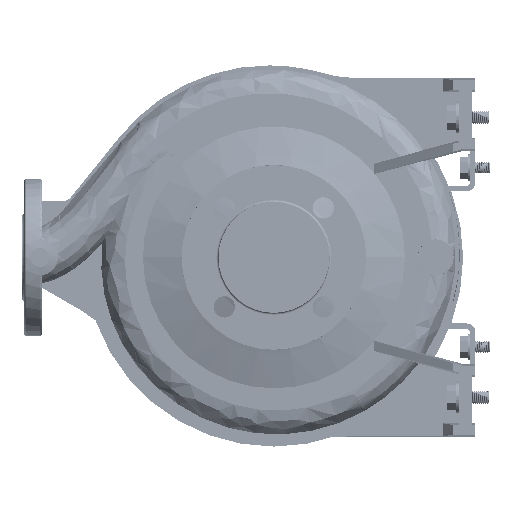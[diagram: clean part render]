
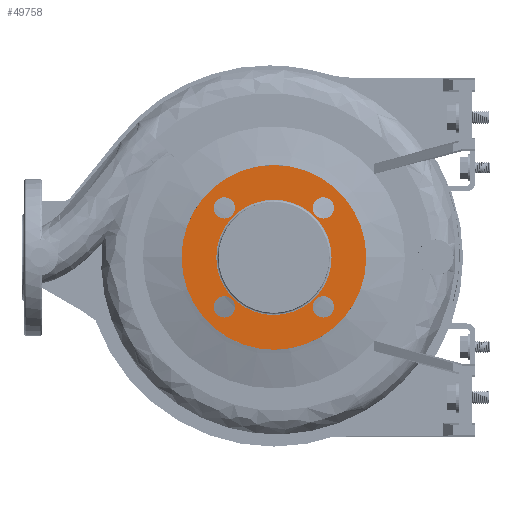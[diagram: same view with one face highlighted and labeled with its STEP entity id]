
A CAD part, left-side view. The second image highlights one B-rep face of the part: STEP entity #49758.
In plain terms, the highlighted planar face has unit normal (-1, 0, 0).
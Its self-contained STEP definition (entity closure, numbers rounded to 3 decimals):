
#1000 = DIRECTION ( 'NONE',  ( 0., -1., 0. ) ) ;
#1547 = AXIS2_PLACEMENT_3D ( 'NONE', #15492, #84991, #169433 ) ;
#2424 = DIRECTION ( 'NONE',  ( 0., 0., -1. ) ) ;
#3151 = FACE_BOUND ( 'NONE', #183386, .T. ) ;
#3783 = EDGE_CURVE ( 'NONE', #137918, #134815, #61438, .T. ) ;
#4379 = CARTESIAN_POINT ( 'NONE',  ( -98., 51.5, 0. ) ) ;
#4579 = VERTEX_POINT ( 'NONE', #16188 ) ;
#10284 = DIRECTION ( 'NONE',  ( 0., 0., 1. ) ) ;
#14205 = DIRECTION ( 'NONE',  ( -1., 0., 0. ) ) ;
#15067 = CARTESIAN_POINT ( 'NONE',  ( -98., -34.694, -44.194 ) ) ;
#15492 = CARTESIAN_POINT ( 'NONE',  ( -98., 44.194, -44.194 ) ) ;
#16188 = CARTESIAN_POINT ( 'NONE',  ( -98., -34.694, 44.194 ) ) ;
#21710 = DIRECTION ( 'NONE',  ( 0., 1., 0. ) ) ;
#23884 = AXIS2_PLACEMENT_3D ( 'NONE', #178594, #107275, #164517 ) ;
#24857 = CIRCLE ( 'NONE', #108704, 9.5 ) ;
#26494 = CIRCLE ( 'NONE', #35503, 9.5 ) ;
#27367 = CARTESIAN_POINT ( 'NONE',  ( -98., -44.194, -44.194 ) ) ;
#29463 = ORIENTED_EDGE ( 'NONE', *, *, #74796, .F. ) ;
#31032 = DIRECTION ( 'NONE',  ( 0., -1., 0. ) ) ;
#31188 = ORIENTED_EDGE ( 'NONE', *, *, #103571, .T. ) ;
#34107 = FACE_BOUND ( 'NONE', #44030, .T. ) ;
#35503 = AXIS2_PLACEMENT_3D ( 'NONE', #170699, #54403, #10284 ) ;
#36001 = ORIENTED_EDGE ( 'NONE', *, *, #38910, .F. ) ;
#36553 = CIRCLE ( 'NONE', #120496, 9.5 ) ;
#36808 = CARTESIAN_POINT ( 'NONE',  ( -98., 53.694, -44.194 ) ) ;
#37616 = CARTESIAN_POINT ( 'NONE',  ( -98., 0., 0. ) ) ;
#38910 = EDGE_CURVE ( 'NONE', #4579, #175859, #144381, .T. ) ;
#39610 = DIRECTION ( 'NONE',  ( 0., 0., -1. ) ) ;
#40286 = ORIENTED_EDGE ( 'NONE', *, *, #154638, .F. ) ;
#42578 = VERTEX_POINT ( 'NONE', #4379 ) ;
#43262 = DIRECTION ( 'NONE',  ( 0., 1., 0. ) ) ;
#44030 = EDGE_LOOP ( 'NONE', ( #29463, #138093 ) ) ;
#45769 = CARTESIAN_POINT ( 'NONE',  ( -98., 0., 0. ) ) ;
#46028 = DIRECTION ( 'NONE',  ( -1., 0., 0. ) ) ;
#49121 = FACE_BOUND ( 'NONE', #149010, .T. ) ;
#49758 = ADVANCED_FACE ( 'NONE', ( #34107, #177660, #49121, #106338, #3151, #121342 ), #149517, .T. ) ;
#51802 = CIRCLE ( 'NONE', #69772, 9.5 ) ;
#53357 = VERTEX_POINT ( 'NONE', #168036 ) ;
#54403 = DIRECTION ( 'NONE',  ( -1., 0., 0. ) ) ;
#56394 = CARTESIAN_POINT ( 'NONE',  ( -98., 82.5, 0. ) ) ;
#58258 = CARTESIAN_POINT ( 'NONE',  ( -98., 44.194, 44.194 ) ) ;
#59860 = DIRECTION ( 'NONE',  ( 1., 0., 0. ) ) ;
#60928 = VERTEX_POINT ( 'NONE', #105125 ) ;
#61438 = CIRCLE ( 'NONE', #1547, 9.5 ) ;
#67264 = ORIENTED_EDGE ( 'NONE', *, *, #86058, .T. ) ;
#69772 = AXIS2_PLACEMENT_3D ( 'NONE', #81871, #96838, #39610 ) ;
#70972 = DIRECTION ( 'NONE',  ( -1., 0., 0. ) ) ;
#71355 = VERTEX_POINT ( 'NONE', #56394 ) ;
#71800 = CARTESIAN_POINT ( 'NONE',  ( -98., 34.694, -44.194 ) ) ;
#74796 = EDGE_CURVE ( 'NONE', #134815, #137918, #26494, .T. ) ;
#78370 = CARTESIAN_POINT ( 'NONE',  ( -98., -53.694, 44.194 ) ) ;
#78377 = CIRCLE ( 'NONE', #117302, 82.5 ) ;
#81871 = CARTESIAN_POINT ( 'NONE',  ( -98., -44.194, 44.194 ) ) ;
#82433 = EDGE_CURVE ( 'NONE', #129426, #157465, #36553, .T. ) ;
#83672 = EDGE_CURVE ( 'NONE', #60928, #53357, #84642, .T. ) ;
#83714 = EDGE_CURVE ( 'NONE', #53357, #60928, #24857, .T. ) ;
#83722 = DIRECTION ( 'NONE',  ( 0., 1., 0. ) ) ;
#83849 = ORIENTED_EDGE ( 'NONE', *, *, #116980, .F. ) ;
#84642 = CIRCLE ( 'NONE', #108576, 9.5 ) ;
#84650 = CARTESIAN_POINT ( 'NONE',  ( -98., -82.5, 0. ) ) ;
#84991 = DIRECTION ( 'NONE',  ( -1., 0., 0. ) ) ;
#86058 = EDGE_CURVE ( 'NONE', #42578, #173348, #114699, .T. ) ;
#87634 = AXIS2_PLACEMENT_3D ( 'NONE', #87863, #160061, #2424 ) ;
#87863 = CARTESIAN_POINT ( 'NONE',  ( -98., -44.194, 44.194 ) ) ;
#89191 = DIRECTION ( 'NONE',  ( -1., 0., 0. ) ) ;
#89212 = EDGE_CURVE ( 'NONE', #71355, #119244, #97168, .T. ) ;
#91142 = DIRECTION ( 'NONE',  ( 1., 0., 0. ) ) ;
#92899 = CIRCLE ( 'NONE', #116829, 51.5 ) ;
#93334 = AXIS2_PLACEMENT_3D ( 'NONE', #27367, #14205, #83722 ) ;
#94562 = DIRECTION ( 'NONE',  ( 0., 1., 0. ) ) ;
#96636 = AXIS2_PLACEMENT_3D ( 'NONE', #37616, #91142, #21710 ) ;
#96838 = DIRECTION ( 'NONE',  ( -1., 0., 0. ) ) ;
#97168 = CIRCLE ( 'NONE', #163208, 82.5 ) ;
#99423 = EDGE_LOOP ( 'NONE', ( #171501, #83849 ) ) ;
#103205 = ORIENTED_EDGE ( 'NONE', *, *, #82433, .F. ) ;
#103571 = EDGE_CURVE ( 'NONE', #173348, #42578, #92899, .T. ) ;
#105125 = CARTESIAN_POINT ( 'NONE',  ( -98., 34.694, 44.194 ) ) ;
#106338 = FACE_BOUND ( 'NONE', #142332, .T. ) ;
#107275 = DIRECTION ( 'NONE',  ( -1., 0., 0. ) ) ;
#107705 = CARTESIAN_POINT ( 'NONE',  ( -98., 0., 0. ) ) ;
#108576 = AXIS2_PLACEMENT_3D ( 'NONE', #58258, #46028, #1000 ) ;
#108704 = AXIS2_PLACEMENT_3D ( 'NONE', #159563, #89191, #31032 ) ;
#114555 = CARTESIAN_POINT ( 'NONE',  ( -98., 0., 0. ) ) ;
#114699 = CIRCLE ( 'NONE', #96636, 51.5 ) ;
#116829 = AXIS2_PLACEMENT_3D ( 'NONE', #107705, #164023, #94562 ) ;
#116980 = EDGE_CURVE ( 'NONE', #119244, #71355, #78377, .T. ) ;
#117064 = DIRECTION ( 'NONE',  ( 0., 1., 0. ) ) ;
#117302 = AXIS2_PLACEMENT_3D ( 'NONE', #45769, #59860, #117064 ) ;
#119062 = EDGE_CURVE ( 'NONE', #175859, #4579, #51802, .T. ) ;
#119244 = VERTEX_POINT ( 'NONE', #84650 ) ;
#120496 = AXIS2_PLACEMENT_3D ( 'NONE', #142250, #70972, #185429 ) ;
#121342 = FACE_OUTER_BOUND ( 'NONE', #99423, .T. ) ;
#127598 = ORIENTED_EDGE ( 'NONE', *, *, #119062, .F. ) ;
#129426 = VERTEX_POINT ( 'NONE', #152490 ) ;
#134815 = VERTEX_POINT ( 'NONE', #71800 ) ;
#135414 = EDGE_LOOP ( 'NONE', ( #103205, #40286 ) ) ;
#137918 = VERTEX_POINT ( 'NONE', #36808 ) ;
#138093 = ORIENTED_EDGE ( 'NONE', *, *, #3783, .F. ) ;
#142250 = CARTESIAN_POINT ( 'NONE',  ( -98., -44.194, -44.194 ) ) ;
#142332 = EDGE_LOOP ( 'NONE', ( #151820, #184371 ) ) ;
#144381 = CIRCLE ( 'NONE', #87634, 9.5 ) ;
#149010 = EDGE_LOOP ( 'NONE', ( #127598, #36001 ) ) ;
#149517 = PLANE ( 'NONE',  #23884 ) ;
#150250 = CIRCLE ( 'NONE', #93334, 9.5 ) ;
#151820 = ORIENTED_EDGE ( 'NONE', *, *, #83672, .F. ) ;
#152490 = CARTESIAN_POINT ( 'NONE',  ( -98., -53.694, -44.194 ) ) ;
#154638 = EDGE_CURVE ( 'NONE', #157465, #129426, #150250, .T. ) ;
#157465 = VERTEX_POINT ( 'NONE', #15067 ) ;
#159563 = CARTESIAN_POINT ( 'NONE',  ( -98., 44.194, 44.194 ) ) ;
#160061 = DIRECTION ( 'NONE',  ( -1., 0., 0. ) ) ;
#163208 = AXIS2_PLACEMENT_3D ( 'NONE', #114555, #171804, #43262 ) ;
#164023 = DIRECTION ( 'NONE',  ( 1., 0., 0. ) ) ;
#164517 = DIRECTION ( 'NONE',  ( 0., -1., 0. ) ) ;
#168001 = CARTESIAN_POINT ( 'NONE',  ( -98., -51.5, 0. ) ) ;
#168036 = CARTESIAN_POINT ( 'NONE',  ( -98., 53.694, 44.194 ) ) ;
#169433 = DIRECTION ( 'NONE',  ( 0., 0., 1. ) ) ;
#170699 = CARTESIAN_POINT ( 'NONE',  ( -98., 44.194, -44.194 ) ) ;
#171501 = ORIENTED_EDGE ( 'NONE', *, *, #89212, .F. ) ;
#171804 = DIRECTION ( 'NONE',  ( 1., 0., 0. ) ) ;
#173348 = VERTEX_POINT ( 'NONE', #168001 ) ;
#175859 = VERTEX_POINT ( 'NONE', #78370 ) ;
#177660 = FACE_BOUND ( 'NONE', #135414, .T. ) ;
#178594 = CARTESIAN_POINT ( 'NONE',  ( -98., 51.5, 0. ) ) ;
#183386 = EDGE_LOOP ( 'NONE', ( #67264, #31188 ) ) ;
#184371 = ORIENTED_EDGE ( 'NONE', *, *, #83714, .F. ) ;
#185429 = DIRECTION ( 'NONE',  ( 0., 1., 0. ) ) ;
